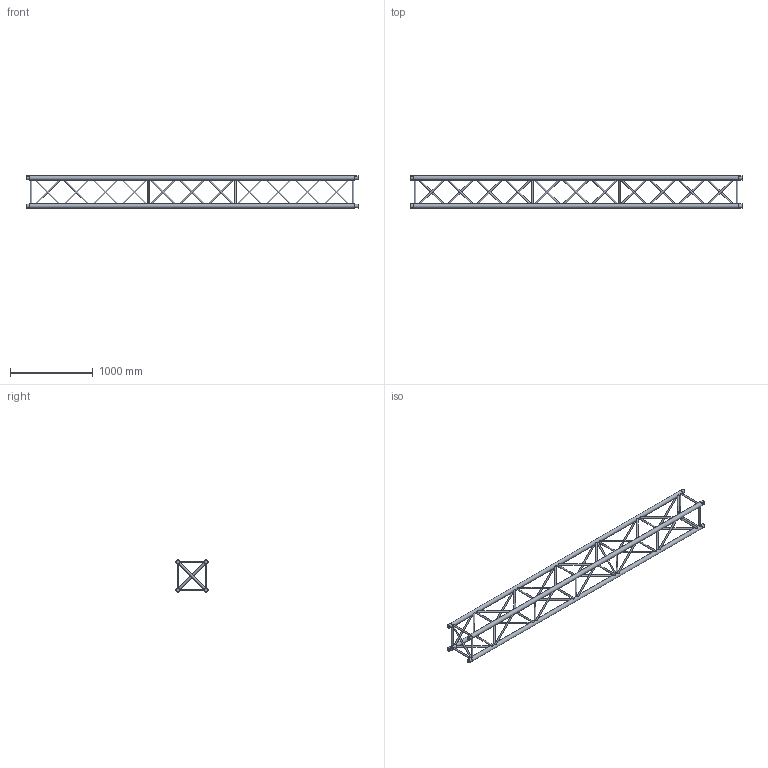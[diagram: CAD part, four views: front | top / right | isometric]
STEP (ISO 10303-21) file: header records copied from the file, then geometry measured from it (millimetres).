
FILE_DESCRIPTION(/* description */ (''),/* implementation_level */ '2;1');
FILE_NAME(/* name */ 'M:\Symbolen\STP\40-er truss\111080201.stp',/* time_stamp */ '2015-02-26T17:00:40+01:00',/* author */ ('Stephan'),/* organization */ (''),/* preprocessor_version */ 'ST-DEVELOPER v15.6',/* originating_system */ 'Autodesk Inventor 2015',/* authorisation */ '');
FILE_SCHEMA (('AUTOMOTIVE_DESIGN { 1 0 10303 214 3 1 1 }'));
Length unit declared in the file: millimetre
Products named in the file (1): 160023962
Bounding box: 4000 x 389.98 x 389.98 mm (x, y, z)
Volume: 38060755.5 mm3; surface area: 4017297.7 mm2
Topology: 52 solids, 60 shells, 404 faces, 748 edges, 464 vertices
Faces by surface type: plane 232, cylinder 164, cone 8
Full cylindrical faces by diameter (mm): 10 x8, 20 x56, 49.5 x8, 51 x4
Entity records: 10519 total; most frequent: CARTESIAN_POINT 2861, ORIENTED_EDGE 1328, DIRECTION 1322, EDGE_CURVE 648, AXIS2_PLACEMENT_3D 565, EDGE_LOOP 528, VERTEX_POINT 456, STYLED_ITEM 321
